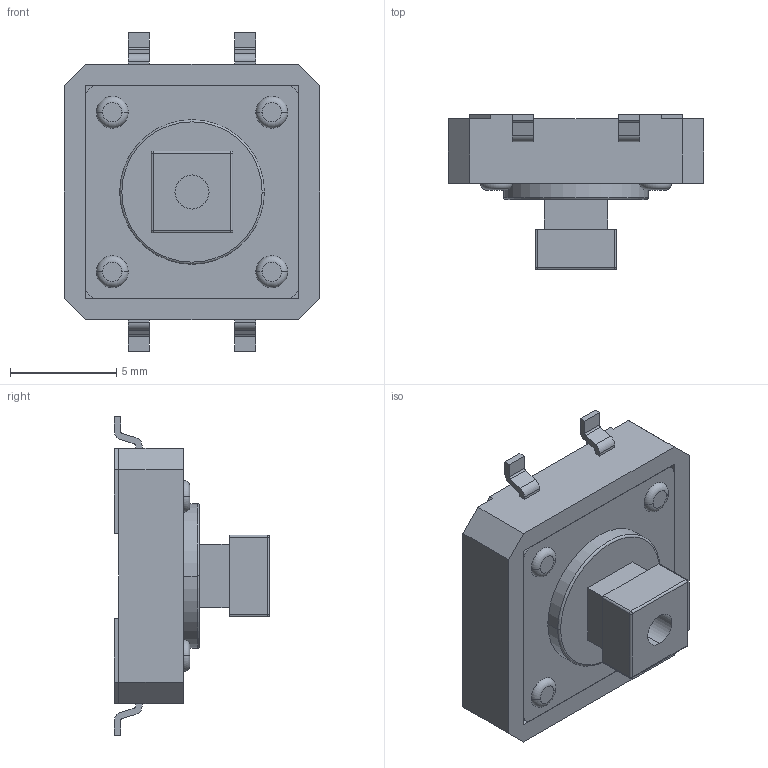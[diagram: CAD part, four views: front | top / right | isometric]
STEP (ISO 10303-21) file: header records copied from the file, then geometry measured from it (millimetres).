
FILE_DESCRIPTION((''),'2;1');
FILE_NAME('JQA1212G-C0731-01G-1-101_ASM','2026-05-13T17:09:21',('Admin'),(''),'CREO PARAMETRIC BY PTC INC, 2019224','CREO PARAMETRIC BY PTC INC, 2019224','');
FILE_SCHEMA(('AUTOMOTIVE_DESIGN { 1 0 10303 214 1 1 1 1 }'));
Length unit declared in the file: millimetre
Products named in the file (3): JQA1212G-C0731-01G-1-101_01; JQA1212G-C0731-01G-1-101_03; JQA1212G-C0731-01G-1-101_ASM
Assembly tree (2 placements, depth 2):
  JQA1212G-C0731-01G-1-101_ASM
    JQA1212G-C0731-01G-1-101_01
    JQA1212G-C0731-01G-1-101_03
Bounding box: 12 x 7.3 x 15 mm (x, y, z)
Volume: 505.3 mm3; surface area: 830 mm2
Topology: 3 solids, 3 shells, 162 faces, 417 edges, 288 vertices
Faces by surface type: plane 98, cylinder 50, torus 10, sphere 4
Entity records: 6862 total; most frequent: DIRECTION 891, CARTESIAN_POINT 863, ORIENTED_EDGE 812, PRESENTATION_STYLE_ASSIGNMENT 420, EDGE_CURVE 406, STYLED_ITEM 368, CURVE_STYLE 366, AXIS2_PLACEMENT_3D 301
